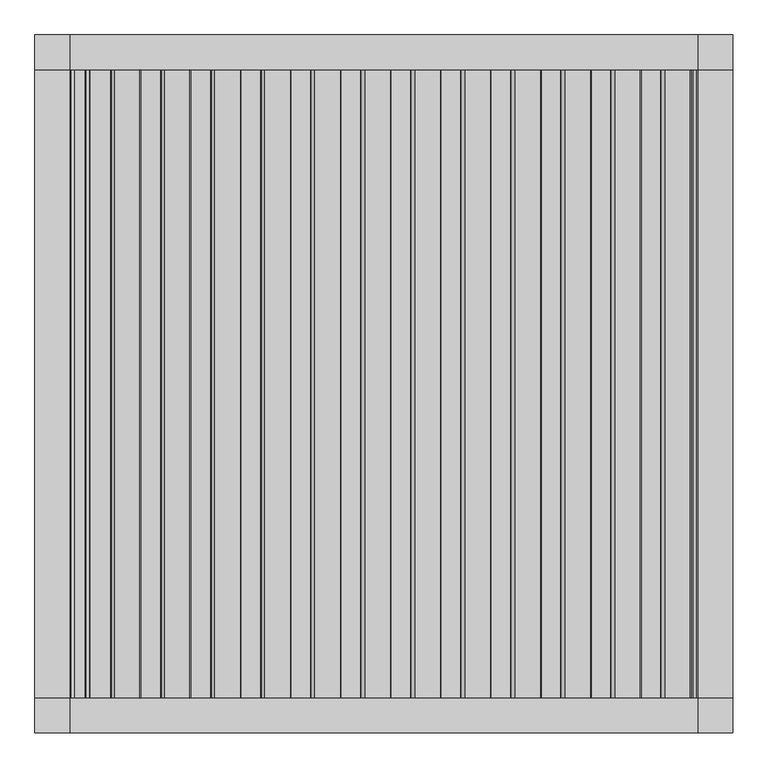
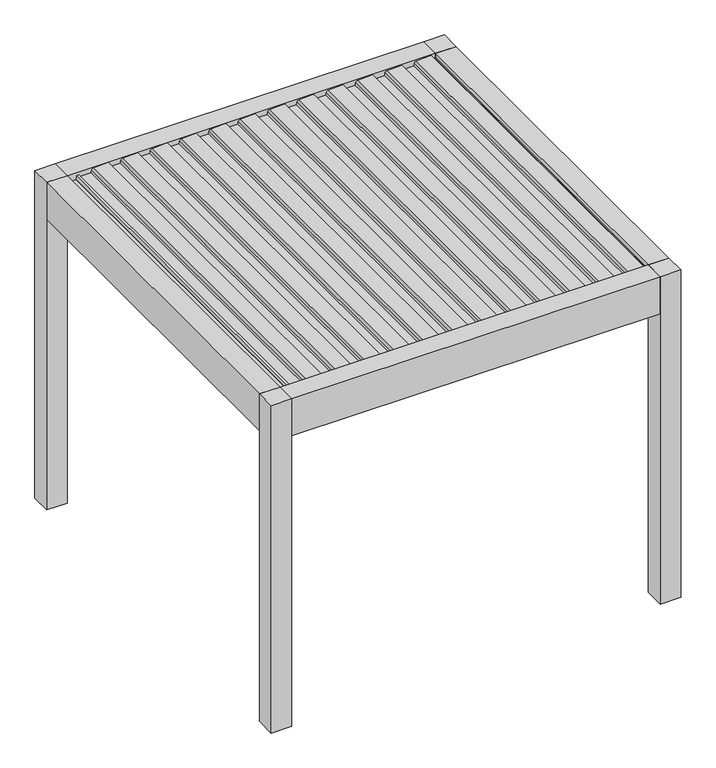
"""IFC4 building model written with IfcOpenShell, lengths in millimetres: proxy geometry, Renson_Amani_Patio_Cover : Renson_Amani_Patio_Cover."""

from ifc_helpers import new_model, si_unit, point, frame, frame_2d, origin, origin_with_axes, place, context, project, spatial, polyline, circle_curve, trimmed, segment, composite_curve, outline, extrude, source, transform, mapped, element, save


def generic_models_72b72d81(model_context):
    return source(origin(), model_context, "Body", "SweptSolid", [
        extrude(outline(composite_curve([segment(polyline([(2483.35, 1073.7289238), (2511.01198, 1076.1490335), (2512.3970364, 1104.984284), (2531.8911096, 1101.5469529), (2526.6075693, 991.549838)]), True, "CONTINUOUS"), segment(trimmed(circle_curve(frame_2d((2511.6248435, 992.26951)), 15.0), [point((2526.6075693, 991.549838))], [point((2514.2295662, 977.4973937))], False, "CARTESIAN"), True, "CONTINUOUS"), segment(polyline([(2514.2295662, 977.4973937), (2495.0, 974.1067023), (2495.0, 886.3709263), (2512.0788237, 883.3594689), (2511.3450182, 868.0824984), (2483.35, 865.6332517), (2483.35, 1073.7289238)]), True, "CONTINUOUS")], self_intersect=False)), frame((0.0, -1350.0, 0.0), z_axis=(0.0, 1.0, 0.0), x_axis=(0.0, 0.0, 1.0)), (0.0, 0.0, 1.0), 2700.0),
        extrude(outline(composite_curve([segment(polyline([(2483.35, 858.7132078), (2511.01198, 861.1333174), (2512.3970364, 889.9685679), (2531.8911096, 886.5312368), (2526.6075693, 776.534122)]), True, "CONTINUOUS"), segment(trimmed(circle_curve(frame_2d((2511.6248435, 777.2537939)), 15.0), [point((2526.6075693, 776.534122))], [point((2514.2295662, 762.4816776))], False, "CARTESIAN"), True, "CONTINUOUS"), segment(polyline([(2514.2295662, 762.4816776), (2495.0, 759.0909863), (2495.0, 671.3552102), (2512.0788237, 668.3437528), (2511.3450182, 653.0667824), (2483.35, 650.6175356), (2483.35, 858.7132078)]), True, "CONTINUOUS")], self_intersect=False)), frame((0.0, -1350.0, 0.0), z_axis=(0.0, 1.0, 0.0), x_axis=(0.0, 0.0, 1.0)), (0.0, 0.0, 1.0), 2700.0),
        extrude(outline(composite_curve([segment(polyline([(2483.35, 643.6974917), (2511.01198, 646.1176014), (2512.3970364, 674.9528519), (2531.8911096, 671.5155208), (2526.6075693, 561.5184059)]), True, "CONTINUOUS"), segment(trimmed(circle_curve(frame_2d((2511.6248435, 562.2380779)), 15.0), [point((2526.6075693, 561.5184059))], [point((2514.2295662, 547.4659616))], False, "CARTESIAN"), True, "CONTINUOUS"), segment(polyline([(2514.2295662, 547.4659616), (2495.0, 544.0752702), (2495.0, 456.3394942), (2512.0788237, 453.3280368), (2511.3450182, 438.0510663), (2483.35, 435.6018196), (2483.35, 643.6974917)]), True, "CONTINUOUS")], self_intersect=False)), frame((0.0, -1350.0, 0.0), z_axis=(0.0, 1.0, 0.0), x_axis=(0.0, 0.0, 1.0)), (0.0, 0.0, 1.0), 2700.0),
        extrude(outline(composite_curve([segment(polyline([(2483.35, 428.6817757), (2511.01198, 431.1018854), (2512.3970364, 459.9371358), (2531.8911096, 456.4998047), (2526.6075693, 346.5026899)]), True, "CONTINUOUS"), segment(trimmed(circle_curve(frame_2d((2511.6248435, 347.2223618)), 15.0), [point((2526.6075693, 346.5026899))], [point((2514.2295662, 332.4502455))], False, "CARTESIAN"), True, "CONTINUOUS"), segment(polyline([(2514.2295662, 332.4502455), (2495.0, 329.0595542), (2495.0, 241.3237782), (2512.0788237, 238.3123207), (2511.3450182, 223.0353503), (2483.35, 220.5861035), (2483.35, 428.6817757)]), True, "CONTINUOUS")], self_intersect=False)), frame((0.0, -1350.0, 0.0), z_axis=(0.0, 1.0, 0.0), x_axis=(0.0, 0.0, 1.0)), (0.0, 0.0, 1.0), 2700.0),
        extrude(outline(composite_curve([segment(polyline([(2483.35, 213.6660597), (2511.01198, 216.0861693), (2512.3970364, 244.9214198), (2531.8911096, 241.4840887), (2526.6075693, 131.4869738)]), True, "CONTINUOUS"), segment(trimmed(circle_curve(frame_2d((2511.6248435, 132.2066458)), 15.0), [point((2526.6075693, 131.4869738))], [point((2514.2295662, 117.4345295))], False, "CARTESIAN"), True, "CONTINUOUS"), segment(polyline([(2514.2295662, 117.4345295), (2495.0, 114.0438381), (2495.0, 26.3080621), (2512.0788237, 23.2966047), (2511.3450182, 8.0196342), (2483.35, 5.5703875), (2483.35, 213.6660597)]), True, "CONTINUOUS")], self_intersect=False)), frame((0.0, -1350.0, 0.0), z_axis=(0.0, 1.0, 0.0), x_axis=(0.0, 0.0, 1.0)), (0.0, 0.0, 1.0), 2700.0),
        extrude(outline(composite_curve([segment(polyline([(2483.35, -1.3496564), (2511.01198, 1.0704533), (2512.3970364, 29.9057037), (2531.8911096, 26.4683726), (2526.6075693, -83.5287422)]), True, "CONTINUOUS"), segment(trimmed(circle_curve(frame_2d((2511.6248435, -82.8090703)), 15.0), [point((2526.6075693, -83.5287422))], [point((2514.2295662, -97.5811866))], False, "CARTESIAN"), True, "CONTINUOUS"), segment(polyline([(2514.2295662, -97.5811866), (2495.0, -100.9718779), (2495.0, -188.7076539), (2512.0788237, -191.7191114), (2511.3450182, -206.9960818), (2483.35, -209.4453286), (2483.35, -1.3496564)]), True, "CONTINUOUS")], self_intersect=False)), frame((0.0, -1350.0, 0.0), z_axis=(0.0, 1.0, 0.0), x_axis=(0.0, 0.0, 1.0)), (0.0, 0.0, 1.0), 2700.0),
        extrude(outline(composite_curve([segment(polyline([(2483.35, -216.3653724), (2511.01198, -213.9452628), (2512.3970364, -185.1100123), (2531.8911096, -188.5473434), (2526.6075693, -298.5444582)]), True, "CONTINUOUS"), segment(trimmed(circle_curve(frame_2d((2511.6248435, -297.8247863)), 15.0), [point((2526.6075693, -298.5444582))], [point((2514.2295662, -312.5969026))], False, "CARTESIAN"), True, "CONTINUOUS"), segment(polyline([(2514.2295662, -312.5969026), (2495.0, -315.987594), (2495.0, -403.72337), (2512.0788237, -406.7348274), (2511.3450182, -422.0117979), (2483.35, -424.4610446), (2483.35, -216.3653724)]), True, "CONTINUOUS")], self_intersect=False)), frame((0.0, -1350.0, 0.0), z_axis=(0.0, 1.0, 0.0), x_axis=(0.0, 0.0, 1.0)), (0.0, 0.0, 1.0), 2700.0),
        extrude(outline(composite_curve([segment(polyline([(2483.35, -431.3810885), (2511.01198, -428.9609788), (2512.3970364, -400.1257284), (2531.8911096, -403.5630594), (2526.6075693, -513.5601743)]), True, "CONTINUOUS"), segment(trimmed(circle_curve(frame_2d((2511.6248435, -512.8405024)), 15.0), [point((2526.6075693, -513.5601743))], [point((2514.2295662, -527.6126187))], False, "CARTESIAN"), True, "CONTINUOUS"), segment(polyline([(2514.2295662, -527.6126187), (2495.0, -531.00331), (2495.0, -618.739086), (2512.0788237, -621.7505434), (2511.3450182, -637.0275139), (2483.35, -639.4767606), (2483.35, -431.3810885)]), True, "CONTINUOUS")], self_intersect=False)), frame((0.0, -1350.0, 0.0), z_axis=(0.0, 1.0, 0.0), x_axis=(0.0, 0.0, 1.0)), (0.0, 0.0, 1.0), 2700.0),
        extrude(outline(composite_curve([segment(polyline([(2483.35, -646.3968045), (2511.01198, -643.9766949), (2512.3970364, -615.1414444), (2531.8911096, -618.5787755), (2526.6075693, -728.5758903)]), True, "CONTINUOUS"), segment(trimmed(circle_curve(frame_2d((2511.6248435, -727.8562184)), 15.0), [point((2526.6075693, -728.5758903))], [point((2514.2295662, -742.6283347))], False, "CARTESIAN"), True, "CONTINUOUS"), segment(polyline([(2514.2295662, -742.6283347), (2495.0, -746.019026), (2495.0, -833.7548021), (2512.0788237, -836.7662595), (2511.3450182, -852.04323), (2483.35, -854.4924767), (2483.35, -646.3968045)]), True, "CONTINUOUS")], self_intersect=False)), frame((0.0, -1350.0, 0.0), z_axis=(0.0, 1.0, 0.0), x_axis=(0.0, 0.0, 1.0)), (0.0, 0.0, 1.0), 2700.0),
        extrude(outline(composite_curve([segment(polyline([(2483.35, -861.4125206), (2511.01198, -858.9924109), (2512.3970364, -830.1571605), (2531.8911096, -833.5944915), (2526.6075693, -943.5916064)]), True, "CONTINUOUS"), segment(trimmed(circle_curve(frame_2d((2511.6248435, -942.8719345)), 15.0), [point((2526.6075693, -943.5916064))], [point((2514.2295662, -957.6440508))], False, "CARTESIAN"), True, "CONTINUOUS"), segment(polyline([(2514.2295662, -957.6440508), (2495.0, -961.0347421), (2495.0, -1048.7705181), (2512.0788237, -1051.7819755), (2511.3450182, -1067.058946), (2483.35, -1069.5081927), (2483.35, -861.4125206)]), True, "CONTINUOUS")], self_intersect=False)), frame((0.0, -1350.0, 0.0), z_axis=(0.0, 1.0, 0.0), x_axis=(0.0, 0.0, 1.0)), (0.0, 0.0, 1.0), 2700.0),
        extrude(outline(composite_curve([segment(polyline([(2483.35, 1288.7446399), (2511.01198, 1291.1647495), (2512.3970364, 1320.0), (2531.8911096, 1316.5626689), (2526.6075693, 1206.5655541)]), True, "CONTINUOUS"), segment(trimmed(circle_curve(frame_2d((2511.6248435, 1207.285226)), 15.0), [point((2526.6075693, 1206.5655541))], [point((2514.2295662, 1192.5131097))], False, "CARTESIAN"), True, "CONTINUOUS"), segment(polyline([(2514.2295662, 1192.5131097), (2495.0, 1189.1224184), (2495.0, 1101.3866423), (2512.0788237, 1098.3751849), (2511.3450182, 1083.0982144), (2483.35, 1080.6489677), (2483.35, 1288.7446399)]), True, "CONTINUOUS")], self_intersect=False)), frame((0.0, -1350.0, 0.0), z_axis=(0.0, 1.0, 0.0), x_axis=(0.0, 0.0, 1.0)), (0.0, 0.0, 1.0), 2700.0),
        extrude(outline(composite_curve([segment(polyline([(2483.35, -1076.4282366), (2511.01198, -1074.008127), (2512.3970364, -1045.1728765), (2531.8911096, -1048.6102076), (2526.6075693, -1158.6073224)]), True, "CONTINUOUS"), segment(trimmed(circle_curve(frame_2d((2511.6248435, -1157.8876505)), 15.0), [point((2526.6075693, -1158.6073224))], [point((2514.2295662, -1172.6597668))], False, "CARTESIAN"), True, "CONTINUOUS"), segment(polyline([(2514.2295662, -1172.6597668), (2495.0, -1176.0504581), (2495.0, -1263.7862342), (2512.0788237, -1266.7976916), (2511.3450182, -1282.0746621), (2483.35, -1284.5239088), (2483.35, -1076.4282366)]), True, "CONTINUOUS")], self_intersect=False)), frame((0.0, -1350.0, 0.0), z_axis=(0.0, 1.0, 0.0), x_axis=(0.0, 0.0, 1.0)), (0.0, 0.0, 1.0), 2700.0),
        extrude(outline(polyline([(1500.0, -1350.0), (1500.0, -1500.0), (1350.0, -1500.0), (1350.0, -1350.0), (1500.0, -1350.0)])), origin_with_axes(), (0.0, 0.0, 1.0), 2535.0),
        extrude(outline(polyline([(1500.0, 1500.0), (1500.0, 1350.0), (1350.0, 1350.0), (1350.0, 1500.0), (1500.0, 1500.0)])), origin_with_axes(), (0.0, 0.0, 1.0), 2535.0),
        extrude(outline(polyline([(-1350.0, 1350.0), (-1500.0, 1350.0), (-1500.0, 1500.0), (-1350.0, 1500.0), (-1350.0, 1350.0)])), origin_with_axes(), (0.0, 0.0, 1.0), 2535.0),
        extrude(outline(polyline([(-1350.0, -1350.0), (-1350.0, -1500.0), (-1500.0, -1500.0), (-1500.0, -1350.0), (-1350.0, -1350.0)])), origin_with_axes(), (0.0, 0.0, 1.0), 2535.0),
        extrude(outline(polyline([(2466.6559373, -1350.0), (2466.6559373, -1290.0), (2480.6555802, -1286.2487113), (2480.6555802, -1329.5940945), (2496.400763, -1345.0), (2504.2449277, -1345.0), (2504.6823598, -1350.0), (2466.6559373, -1350.0)])), frame((0.0, -1350.0, 0.0), z_axis=(0.0, 1.0, 0.0), x_axis=(0.0, 0.0, 1.0)), (0.0, 0.0, 1.0), 2700.0),
        extrude(outline(polyline([(-1350.0, -1350.0), (-1500.0, -1350.0), (-1500.0, 1350.0), (-1350.0, 1350.0), (-1350.0, -1350.0)])), frame((0.0, 0.0, 2250.0), z_axis=(0.0, 0.0, 1.0), x_axis=(1.0, 0.0, 0.0)), (0.0, 0.0, 1.0), 285.0),
        extrude(outline(polyline([(2535.0, 1500.0), (2535.0, 1350.0), (2504.6904658, 1350.0), (2504.2449277, 1345.0), (2496.400763, 1345.0), (2480.6555802, 1329.2544156), (2480.6555802, 1319.9090324), (2466.6559373, 1323.6603211), (2466.6559373, 1350.0), (2250.0, 1350.0), (2250.0, 1500.0), (2535.0, 1500.0)])), frame((0.0, -1350.0, 0.0), z_axis=(0.0, 1.0, 0.0), x_axis=(0.0, 0.0, 1.0)), (0.0, 0.0, 1.0), 2700.0),
        extrude(outline(polyline([(-1350.0, 2535.0), (-1350.0, 2322.0), (-1280.0000001, 2322.0), (-1280.0000001, 2250.0), (-1500.0, 2250.0), (-1500.0, 2535.0), (-1350.0, 2535.0)])), frame((-1350.0, 0.0, 0.0), z_axis=(1.0, 0.0, 0.0), x_axis=(0.0, 1.0, 0.0)), (0.0, 0.0, 1.0), 2700.0),
        extrude(outline(polyline([(1500.0, 2250.0), (1280.0000001, 2250.0), (1280.0000001, 2322.0), (1350.0, 2322.0), (1350.0, 2535.0), (1500.0, 2535.0), (1500.0, 2250.0)])), frame((-1350.0, 0.0, 0.0), z_axis=(1.0, 0.0, 0.0), x_axis=(0.0, 1.0, 0.0)), (0.0, 0.0, 1.0), 2700.0),
    ])


if __name__ == "__main__":
    model = new_model("IFC4")
    model_context = context("Model", 3, world=origin())
    ifc_project = project(units=[si_unit("LENGTHUNIT", "METRE", prefix="MILLI")], contexts=[model_context])
    site = spatial("IfcSite", under=ifc_project)
    building = spatial("IfcBuilding", under=site)
    placement = place(None, origin())
    generic_models_shape = generic_models_72b72d81(model_context)
    element("IfcBuildingElementProxy", 1, Name="Renson_Amani_Patio_Cover : Renson_Amani_Patio_Cover", ObjectType="Renson_Amani_Patio_Cover : Renson_Amani_Patio_Cover", at=placement, inside=building, context=model_context, shape_type="MappedRepresentation", body=[
        mapped(generic_models_shape, transform((0.0, 0.0, 0.0), x_axis=(1.0, 0.0, 0.0), y_axis=(0.0, 1.0, 0.0), z_axis=(0.0, 0.0, 1.0))),
    ])
    save(model, "model.ifc")
